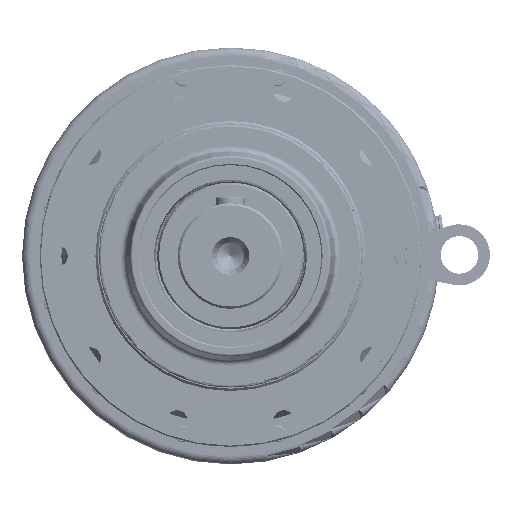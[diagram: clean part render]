
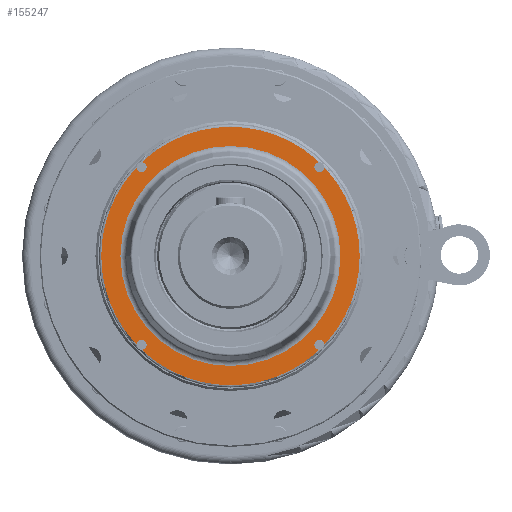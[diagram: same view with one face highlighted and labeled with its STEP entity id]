
A CAD part, left-side view. The second image highlights one B-rep face of the part: STEP entity #155247.
In plain terms, the highlighted planar face has unit normal (-1, 0, 0).
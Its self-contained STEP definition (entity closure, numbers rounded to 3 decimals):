
#1316 = EDGE_CURVE ( 'NONE', #112490, #218421, #174965, .T. ) ;
#2312 = AXIS2_PLACEMENT_3D ( 'NONE', #190692, #45189, #189539 ) ;
#3421 = CARTESIAN_POINT ( 'NONE',  ( -7.5, 75.66, 72.91 ) ) ;
#6805 = AXIS2_PLACEMENT_3D ( 'NONE', #159917, #105986, #157604 ) ;
#10839 = DIRECTION ( 'NONE',  ( -1., 0., 0. ) ) ;
#11175 = AXIS2_PLACEMENT_3D ( 'NONE', #148381, #59226, #130776 ) ;
#11881 = DIRECTION ( 'NONE',  ( 0., 0., -1. ) ) ;
#12581 = EDGE_CURVE ( 'NONE', #31910, #107598, #45440, .T. ) ;
#13021 = DIRECTION ( 'NONE',  ( 1., 0., 0. ) ) ;
#16017 = ORIENTED_EDGE ( 'NONE', *, *, #141418, .T. ) ;
#16709 = ORIENTED_EDGE ( 'NONE', *, *, #150079, .T. ) ;
#17745 = DIRECTION ( 'NONE',  ( 0., 0., -1. ) ) ;
#21038 = DIRECTION ( 'NONE',  ( 1., 0., 0. ) ) ;
#22199 = CARTESIAN_POINT ( 'NONE',  ( -7.5, 0., 0. ) ) ;
#23353 = AXIS2_PLACEMENT_3D ( 'NONE', #176760, #193215, #125073 ) ;
#23936 = VERTEX_POINT ( 'NONE', #132196 ) ;
#24242 = DIRECTION ( 'NONE',  ( 0., 0., -1. ) ) ;
#27147 = PLANE ( 'NONE',  #213601 ) ;
#30105 = EDGE_CURVE ( 'NONE', #107598, #31910, #126391, .T. ) ;
#31910 = VERTEX_POINT ( 'NONE', #111065 ) ;
#36141 = CARTESIAN_POINT ( 'NONE',  ( -7.5, -75.66, 75.66 ) ) ;
#36706 = VERTEX_POINT ( 'NONE', #43224 ) ;
#37645 = EDGE_CURVE ( 'NONE', #100408, #42155, #213984, .T. ) ;
#37677 = DIRECTION ( 'NONE',  ( 0., 0., -1. ) ) ;
#40499 = DIRECTION ( 'NONE',  ( 1., 0., 0. ) ) ;
#41133 = VERTEX_POINT ( 'NONE', #162846 ) ;
#41134 = CIRCLE ( 'NONE', #11175, 2.75 ) ;
#41662 = EDGE_LOOP ( 'NONE', ( #209629, #173476 ) ) ;
#42155 = VERTEX_POINT ( 'NONE', #58190 ) ;
#42411 = ORIENTED_EDGE ( 'NONE', *, *, #37645, .T. ) ;
#42978 = VERTEX_POINT ( 'NONE', #3421 ) ;
#43224 = CARTESIAN_POINT ( 'NONE',  ( -7.5, 75.66, -72.91 ) ) ;
#44360 = CIRCLE ( 'NONE', #141826, 2.75 ) ;
#45189 = DIRECTION ( 'NONE',  ( 1., 0., 0. ) ) ;
#45440 = CIRCLE ( 'NONE', #101603, 110. ) ;
#47655 = AXIS2_PLACEMENT_3D ( 'NONE', #74281, #145830, #129369 ) ;
#49427 = FACE_BOUND ( 'NONE', #136291, .T. ) ;
#54157 = DIRECTION ( 'NONE',  ( -1., 0., 0. ) ) ;
#58190 = CARTESIAN_POINT ( 'NONE',  ( -7.5, 0., 93.676 ) ) ;
#58372 = DIRECTION ( 'NONE',  ( 0., 0., -1. ) ) ;
#58507 = VERTEX_POINT ( 'NONE', #64935 ) ;
#59226 = DIRECTION ( 'NONE',  ( 1., 0., 0. ) ) ;
#59445 = EDGE_CURVE ( 'NONE', #192594, #42978, #145317, .T. ) ;
#59467 = ORIENTED_EDGE ( 'NONE', *, *, #171999, .T. ) ;
#60775 = CARTESIAN_POINT ( 'NONE',  ( -7.5, -75.66, 78.41 ) ) ;
#62573 = AXIS2_PLACEMENT_3D ( 'NONE', #103532, #10839, #153992 ) ;
#63424 = EDGE_LOOP ( 'NONE', ( #16709, #187864 ) ) ;
#64935 = CARTESIAN_POINT ( 'NONE',  ( -7.5, 75.66, -78.41 ) ) ;
#65588 = EDGE_LOOP ( 'NONE', ( #42411, #16017 ) ) ;
#65849 = FACE_BOUND ( 'NONE', #67873, .T. ) ;
#67873 = EDGE_LOOP ( 'NONE', ( #199073, #59467 ) ) ;
#74281 = CARTESIAN_POINT ( 'NONE',  ( -7.5, -75.66, 75.66 ) ) ;
#87028 = CIRCLE ( 'NONE', #23353, 2.75 ) ;
#88415 = CARTESIAN_POINT ( 'NONE',  ( -7.5, 75.66, 78.41 ) ) ;
#89914 = CARTESIAN_POINT ( 'NONE',  ( -7.5, 75.66, -75.66 ) ) ;
#91352 = AXIS2_PLACEMENT_3D ( 'NONE', #178517, #160918, #17745 ) ;
#92766 = EDGE_LOOP ( 'NONE', ( #167193, #122986 ) ) ;
#99919 = FACE_BOUND ( 'NONE', #65588, .T. ) ;
#100408 = VERTEX_POINT ( 'NONE', #190793 ) ;
#101603 = AXIS2_PLACEMENT_3D ( 'NONE', #111592, #54157, #37677 ) ;
#102619 = CARTESIAN_POINT ( 'NONE',  ( -7.5, -75.66, 72.91 ) ) ;
#103532 = CARTESIAN_POINT ( 'NONE',  ( -7.5, 0., 0. ) ) ;
#105986 = DIRECTION ( 'NONE',  ( 1., 0., 0. ) ) ;
#107598 = VERTEX_POINT ( 'NONE', #140320 ) ;
#111065 = CARTESIAN_POINT ( 'NONE',  ( -7.5, 0., -110. ) ) ;
#111592 = CARTESIAN_POINT ( 'NONE',  ( -7.5, 0., 0. ) ) ;
#112490 = VERTEX_POINT ( 'NONE', #60775 ) ;
#113741 = AXIS2_PLACEMENT_3D ( 'NONE', #89914, #40499, #161463 ) ;
#113759 = CIRCLE ( 'NONE', #91352, 93.676 ) ;
#119828 = CARTESIAN_POINT ( 'NONE',  ( -7.5, 90., 0. ) ) ;
#122986 = ORIENTED_EDGE ( 'NONE', *, *, #30105, .T. ) ;
#124585 = EDGE_CURVE ( 'NONE', #23936, #41133, #87028, .T. ) ;
#124966 = CIRCLE ( 'NONE', #113741, 2.75 ) ;
#125073 = DIRECTION ( 'NONE',  ( 0., 0., -1. ) ) ;
#126391 = CIRCLE ( 'NONE', #62573, 110. ) ;
#129369 = DIRECTION ( 'NONE',  ( 0., 0., -1. ) ) ;
#130776 = DIRECTION ( 'NONE',  ( 0., 0., -1. ) ) ;
#131497 = ORIENTED_EDGE ( 'NONE', *, *, #223963, .T. ) ;
#132196 = CARTESIAN_POINT ( 'NONE',  ( -7.5, -75.66, -72.91 ) ) ;
#136291 = EDGE_LOOP ( 'NONE', ( #200056, #131497 ) ) ;
#140320 = CARTESIAN_POINT ( 'NONE',  ( -7.5, 0., 110. ) ) ;
#141418 = EDGE_CURVE ( 'NONE', #42155, #100408, #113759, .T. ) ;
#141826 = AXIS2_PLACEMENT_3D ( 'NONE', #150954, #148623, #24242 ) ;
#145317 = CIRCLE ( 'NONE', #6805, 2.75 ) ;
#145830 = DIRECTION ( 'NONE',  ( 1., 0., 0. ) ) ;
#147545 = DIRECTION ( 'NONE',  ( 1., 0., 0. ) ) ;
#148326 = CIRCLE ( 'NONE', #2312, 2.75 ) ;
#148381 = CARTESIAN_POINT ( 'NONE',  ( -7.5, -75.66, -75.66 ) ) ;
#148623 = DIRECTION ( 'NONE',  ( 1., 0., 0. ) ) ;
#150079 = EDGE_CURVE ( 'NONE', #36706, #58507, #44360, .T. ) ;
#150954 = CARTESIAN_POINT ( 'NONE',  ( -7.5, 75.66, -75.66 ) ) ;
#153992 = DIRECTION ( 'NONE',  ( 0., 0., -1. ) ) ;
#154001 = AXIS2_PLACEMENT_3D ( 'NONE', #22199, #21038, #231477 ) ;
#155247 = ADVANCED_FACE ( 'NONE', ( #99919, #171482, #65849, #207845, #49427, #187949 ), #27147, .F. ) ;
#157604 = DIRECTION ( 'NONE',  ( 0., 0., -1. ) ) ;
#159917 = CARTESIAN_POINT ( 'NONE',  ( -7.5, 75.66, 75.66 ) ) ;
#160918 = DIRECTION ( 'NONE',  ( 1., 0., 0. ) ) ;
#161463 = DIRECTION ( 'NONE',  ( 0., 0., -1. ) ) ;
#162846 = CARTESIAN_POINT ( 'NONE',  ( -7.5, -75.66, -78.41 ) ) ;
#167193 = ORIENTED_EDGE ( 'NONE', *, *, #12581, .T. ) ;
#171482 = FACE_OUTER_BOUND ( 'NONE', #92766, .T. ) ;
#171999 = EDGE_CURVE ( 'NONE', #41133, #23936, #41134, .T. ) ;
#172275 = AXIS2_PLACEMENT_3D ( 'NONE', #36141, #147545, #58372 ) ;
#173476 = ORIENTED_EDGE ( 'NONE', *, *, #193303, .T. ) ;
#174965 = CIRCLE ( 'NONE', #47655, 2.75 ) ;
#176760 = CARTESIAN_POINT ( 'NONE',  ( -7.5, -75.66, -75.66 ) ) ;
#178517 = CARTESIAN_POINT ( 'NONE',  ( -7.5, 0., 0. ) ) ;
#187864 = ORIENTED_EDGE ( 'NONE', *, *, #218200, .T. ) ;
#187949 = FACE_BOUND ( 'NONE', #41662, .T. ) ;
#189539 = DIRECTION ( 'NONE',  ( 0., 0., -1. ) ) ;
#190692 = CARTESIAN_POINT ( 'NONE',  ( -7.5, 75.66, 75.66 ) ) ;
#190793 = CARTESIAN_POINT ( 'NONE',  ( -7.5, 0., -93.676 ) ) ;
#192594 = VERTEX_POINT ( 'NONE', #88415 ) ;
#193215 = DIRECTION ( 'NONE',  ( 1., 0., 0. ) ) ;
#193303 = EDGE_CURVE ( 'NONE', #218421, #112490, #209784, .T. ) ;
#199073 = ORIENTED_EDGE ( 'NONE', *, *, #124585, .T. ) ;
#200056 = ORIENTED_EDGE ( 'NONE', *, *, #59445, .T. ) ;
#207845 = FACE_BOUND ( 'NONE', #63424, .T. ) ;
#209629 = ORIENTED_EDGE ( 'NONE', *, *, #1316, .T. ) ;
#209784 = CIRCLE ( 'NONE', #172275, 2.75 ) ;
#213601 = AXIS2_PLACEMENT_3D ( 'NONE', #119828, #13021, #11881 ) ;
#213984 = CIRCLE ( 'NONE', #154001, 93.676 ) ;
#218200 = EDGE_CURVE ( 'NONE', #58507, #36706, #124966, .T. ) ;
#218421 = VERTEX_POINT ( 'NONE', #102619 ) ;
#223963 = EDGE_CURVE ( 'NONE', #42978, #192594, #148326, .T. ) ;
#231477 = DIRECTION ( 'NONE',  ( 0., 0., -1. ) ) ;
